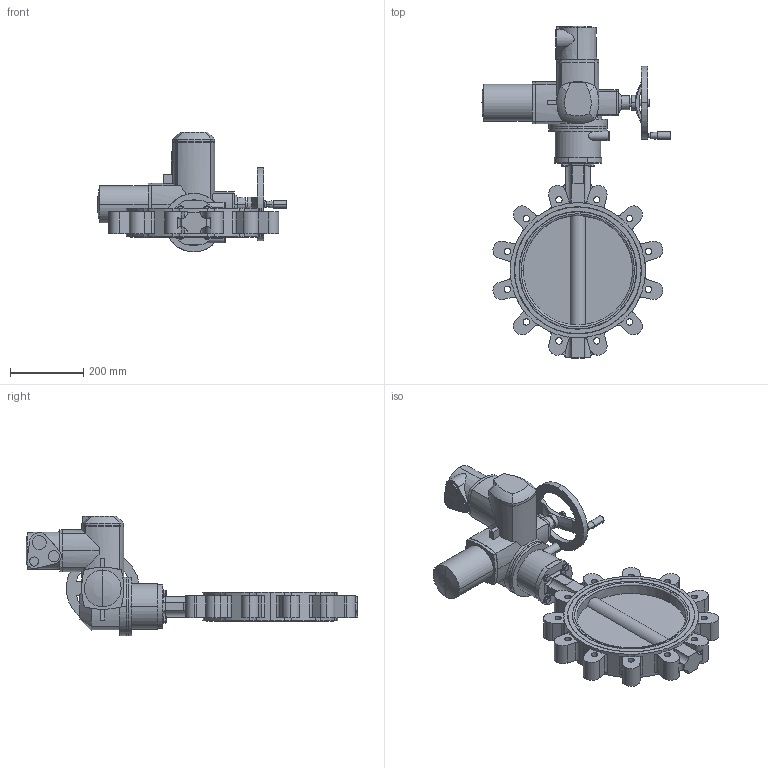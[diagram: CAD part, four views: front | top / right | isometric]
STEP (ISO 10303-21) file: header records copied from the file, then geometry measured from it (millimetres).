
FILE_DESCRIPTION (( 'STEP AP214' ), '1' );
FILE_NAME ('67553.step', '2020-10-23T13:46:57', ( '' ), ( '' ), 'SwSTEP 2.0', 'SolidWorks 2019', '' );
FILE_SCHEMA (( 'AUTOMOTIVE_DESIGN' ));
Length unit declared in the file: millimetre
Products named in the file (7): 67553; 6kt-Schr DIN 933_M10x30; SQ(R) 10.2_SQ10.2 Drehstrommotor; U-Scheibe DIN 125 A_M10; Gewindestift mit Kegelkuppe und In-6kt DIN 913 A4_Gewindestift mit In-6kt M6x12; 54377_SQ10.2 F10-VK22; TL20-0300_M01
Assembly tree (12 placements, depth 2):
  67553
    TL20-0300_M01
    U-Scheibe DIN 125 A_M10  x4
    6kt-Schr DIN 933_M10x30  x4
    SQ(R) 10.2_SQ10.2 Drehstrommotor
    54377_SQ10.2 F10-VK22
    Gewindestift mit Kegelkuppe und In-6kt DIN 913 A4_Gewindestift mit In-6kt M6x12
Bounding box: 517.7 x 909 x 327.8 mm (x, y, z)
Volume: 15541070.3 mm3; surface area: 1044674.9 mm2
Topology: 12 solids, 12 shells, 833 faces, 2151 edges, 1379 vertices
Faces by surface type: plane 389, cylinder 322, cone 99, torus 10, bspline 9, sphere 4
Entity records: 30666 total; most frequent: CARTESIAN_POINT 7881, DIRECTION 4002, ORIENTED_EDGE 3882, EDGE_CURVE 1941, AXIS2_PLACEMENT_3D 1508, VERTEX_POINT 1257, LINE 986, VECTOR 986
